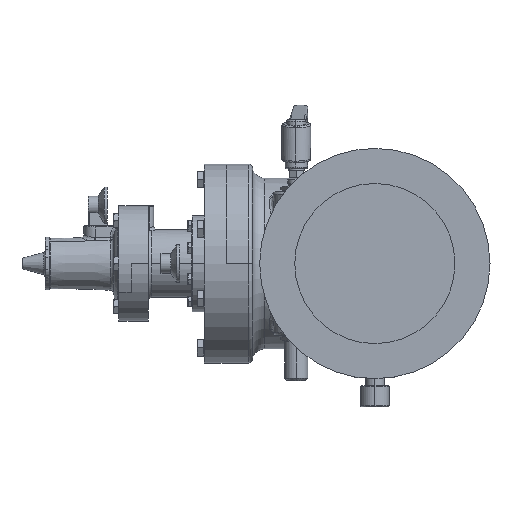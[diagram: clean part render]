
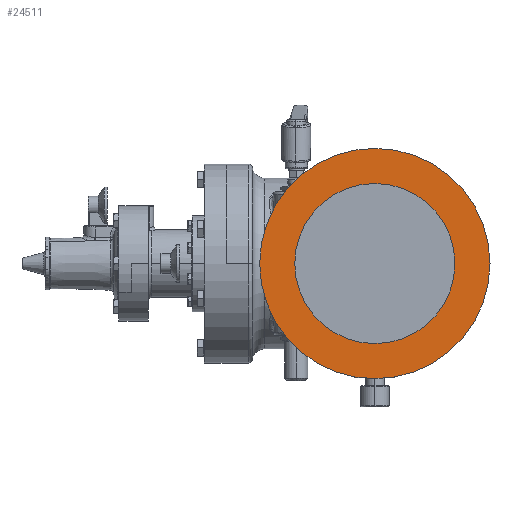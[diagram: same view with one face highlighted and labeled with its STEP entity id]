
A CAD part, left-side view. The second image highlights one B-rep face of the part: STEP entity #24511.
In plain terms, the highlighted planar face has unit normal (-1, 0, 0).
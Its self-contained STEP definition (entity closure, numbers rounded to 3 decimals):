
#4120=CARTESIAN_POINT('',(-149.,0.,0.));
#4121=DIRECTION('',(-1.,0.,0.));
#4122=DIRECTION('',(0.,1.,0.));
#4123=AXIS2_PLACEMENT_3D('',#4120,#4121,#4122);
#4125=CARTESIAN_POINT('',(-149.,0.,0.));
#4126=DIRECTION('',(1.,0.,0.));
#4127=DIRECTION('',(0.,1.,0.));
#4128=AXIS2_PLACEMENT_3D('',#4125,#4126,#4127);
#4130=CARTESIAN_POINT('',(-149.,0.,0.));
#4131=DIRECTION('',(1.,0.,0.));
#4132=DIRECTION('',(0.,1.,0.));
#4133=AXIS2_PLACEMENT_3D('',#4130,#4131,#4132);
#4143=CARTESIAN_POINT('',(-149.,0.,0.));
#4144=DIRECTION('',(-1.,0.,0.));
#4145=DIRECTION('',(0.,1.,0.));
#4146=AXIS2_PLACEMENT_3D('',#4143,#4144,#4145);
#16967=CARTESIAN_POINT('',(-149.,76.5,0.));
#16969=VERTEX_POINT('',#16967);
#16971=CARTESIAN_POINT('',(-149.,-76.5,0.));
#16973=VERTEX_POINT('',#16971);
#16975=CARTESIAN_POINT('',(-149.,110.,0.));
#16976=CARTESIAN_POINT('',(-149.,-110.,0.));
#16977=VERTEX_POINT('',#16975);
#16978=VERTEX_POINT('',#16976);
#24496=CARTESIAN_POINT('',(-149.,0.,0.));
#24497=DIRECTION('',(1.,0.,0.));
#24498=DIRECTION('',(0.,-1.,0.));
#24499=AXIS2_PLACEMENT_3D('',#24496,#24497,#24498);
#24500=PLANE('',#24499);
#24501=ORIENTED_EDGE('',*,*,#24490,.F.);
#24502=ORIENTED_EDGE('',*,*,#24476,.T.);
#24503=EDGE_LOOP('',(#24501,#24502));
#24504=FACE_OUTER_BOUND('',#24503,.F.);
#24506=ORIENTED_EDGE('',*,*,#24505,.F.);
#24508=ORIENTED_EDGE('',*,*,#24507,.T.);
#24509=EDGE_LOOP('',(#24506,#24508));
#24510=FACE_BOUND('',#24509,.F.);
#24511=ADVANCED_FACE('',(#24504,#24510),#24500,.F.);
#4124=CIRCLE('',#4123,110.);
#4129=CIRCLE('',#4128,110.);
#4134=CIRCLE('',#4133,76.5);
#4147=CIRCLE('',#4146,76.5);
#24476=EDGE_CURVE('',#16977,#16978,#4129,.T.);
#24490=EDGE_CURVE('',#16977,#16978,#4124,.T.);
#24505=EDGE_CURVE('',#16969,#16973,#4134,.T.);
#24507=EDGE_CURVE('',#16969,#16973,#4147,.T.);
